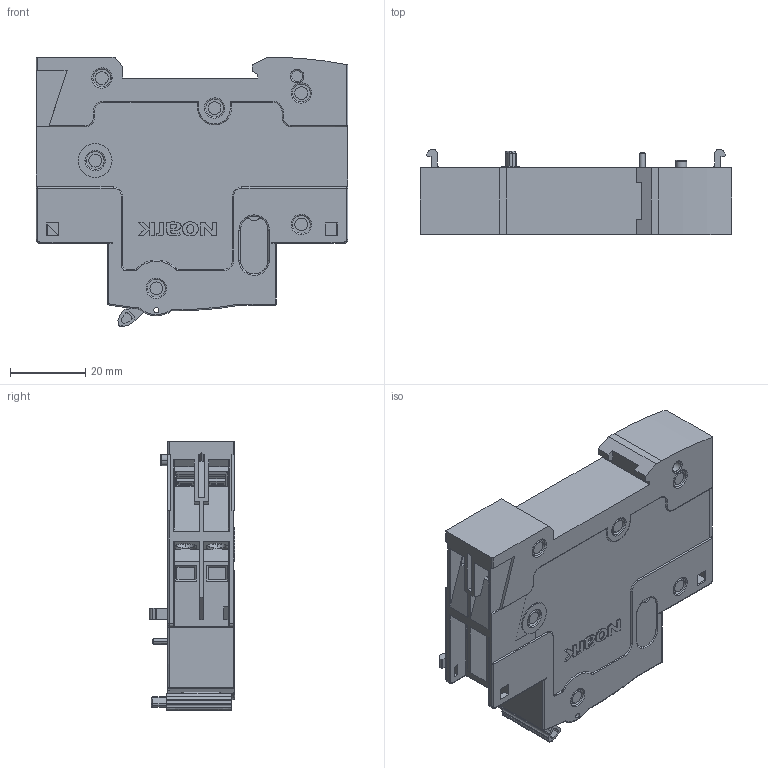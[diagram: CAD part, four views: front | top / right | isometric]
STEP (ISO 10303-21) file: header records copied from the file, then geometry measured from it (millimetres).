
FILE_DESCRIPTION((''),'2;1');
FILE_NAME('ASM0006_ASM','2025-04-28T12:46:45',('dyliuk3'),(''),'CREO PARAMETRIC BY PTC INC, 2020044','CREO PARAMETRIC BY PTC INC, 2020044','');
FILE_SCHEMA(('CONFIG_CONTROL_DESIGN','SHAPE_APPEARANCE_LAYERS_GROUPS'));
Length unit declared in the file: millimetre
Products named in the file (1): ASM0006_ASM
Bounding box: 83 x 22.8 x 71.71 mm (x, y, z)
Surface area: 35295.1 mm2 (no closed solid volume)
Topology: 0 solids, 9 shells, 1443 faces, 4029 edges, 2678 vertices
Faces by surface type: plane 861, cylinder 418, torus 78, extrusion 34, cone 27, sphere 23, bspline 2
Entity records: 56999 total; most frequent: CARTESIAN_POINT 9383, DIRECTION 8049, ORIENTED_EDGE 8020, EDGE_CURVE 4010, AXIS2_PLACEMENT_3D 2768, VERTEX_POINT 2678, VECTOR 2513, LINE 2479
